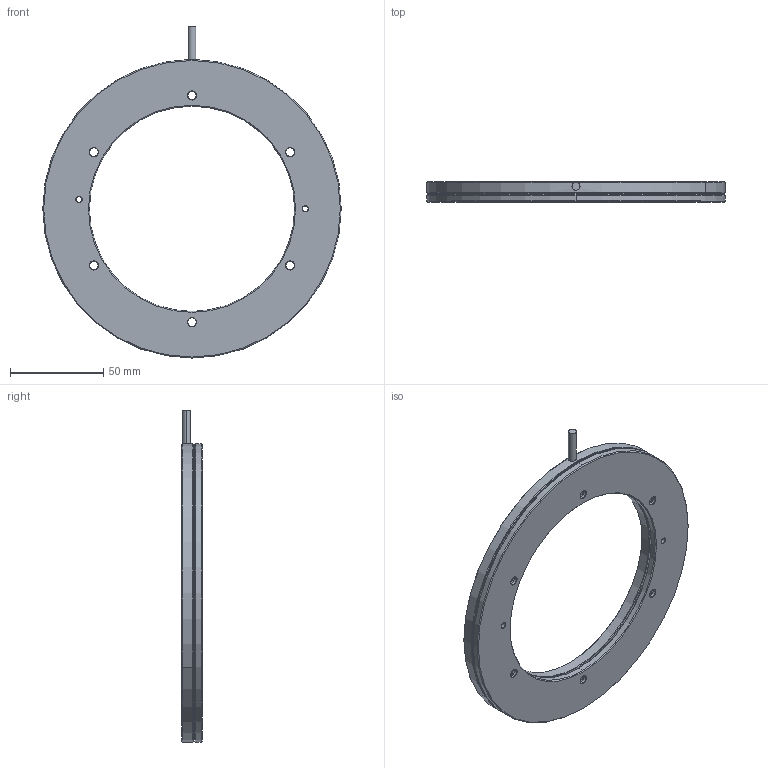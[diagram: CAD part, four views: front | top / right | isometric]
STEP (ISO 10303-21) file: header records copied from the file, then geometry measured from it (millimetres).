
FILE_DESCRIPTION (( 'STEP AP214' ), '1' );
FILE_NAME ('GMI-ANG-160-K0x-ST_rev01.STEP', '2023-11-08T13:02:48', ( '' ), ( '' ), 'SwSTEP 2.0', 'SolidWorks 2021', '' );
FILE_SCHEMA (( 'AUTOMOTIVE_DESIGN' ));
Length unit declared in the file: millimetre
Products named in the file (1): GMI-ANG-160-K0x-ST_rev01
Bounding box: 160 x 10.8 x 178 mm (x, y, z)
Volume: 105808.8 mm3; surface area: 78776.2 mm2
Topology: 6 solids, 6 shells, 249 faces, 568 edges, 355 vertices
Faces by surface type: cylinder 125, cone 71, plane 53
Entity records: 10029 total; most frequent: DIRECTION 1389, CARTESIAN_POINT 1232, ORIENTED_EDGE 1136, AXIS2_PLACEMENT_3D 574, EDGE_CURVE 568, VERTEX_POINT 355, CIRCLE 324, EDGE_LOOP 313
